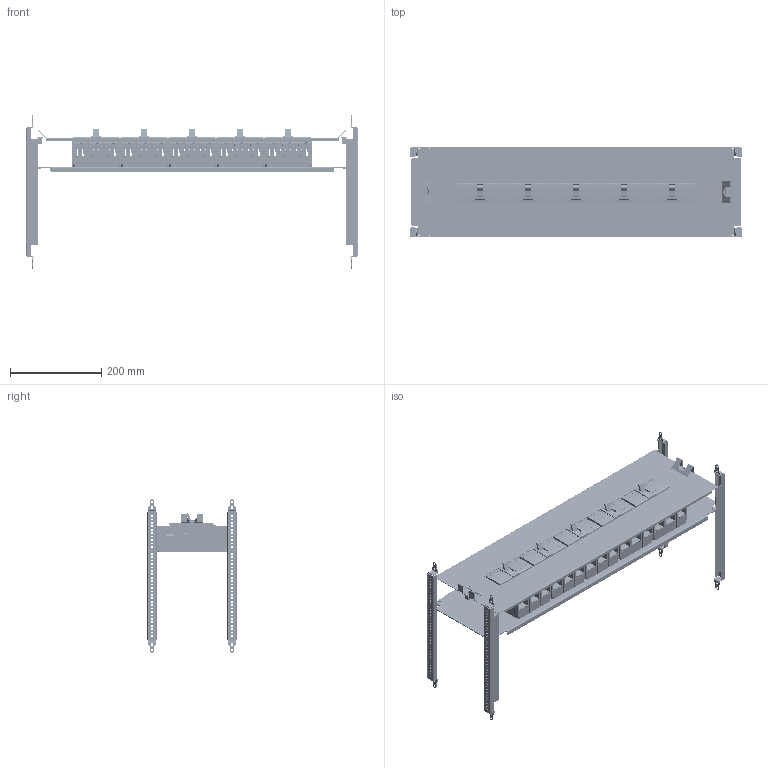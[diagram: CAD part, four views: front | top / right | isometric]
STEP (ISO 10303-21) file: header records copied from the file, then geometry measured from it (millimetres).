
FILE_DESCRIPTION(('CAx-IF Rec.Pracs.---Model Styling and Organization---1.2---2011-12-15','CAx-IF Rec.Pracs.---Geometric and Assembly Validation Properties---4.1---2014-06-16','CAx-IF Rec.Pracs.---PMI Polyline Presentation---2.0---2013-05-24'),'2;1');
FILE_NAME('R5PKIB7V81113.stp','2021-07-29T03:15:55+03:00',(''),(''),'STEP Interface 4.4 by CT CoreTechnologie','3D_Evolution4.4 by CT CoreTechnologie','');
FILE_SCHEMA(('AUTOMOTIVE_DESIGN { 1 0 10303 214 1 1 1 1 }'));
Length unit declared in the file: millimetre
Products named in the file (1): R5PKIB7V81113
Bounding box: 726 x 198 x 335 mm (x, y, z)
Surface area: 1283009.2 mm2 (no closed solid volume)
Topology: 0 solids, 125 shells, 5804 faces, 23548 edges, 17137 vertices
Faces by surface type: plane 3535, cylinder 2087, bspline 182
Entity records: 249815 total; most frequent: CARTESIAN_POINT 55882, DIRECTION 39216, ORIENTED_EDGE 37503, EDGE_CURVE 23485, VECTOR 17590, LINE 17590, VERTEX_POINT 17137, AXIS2_PLACEMENT_3D 10813
